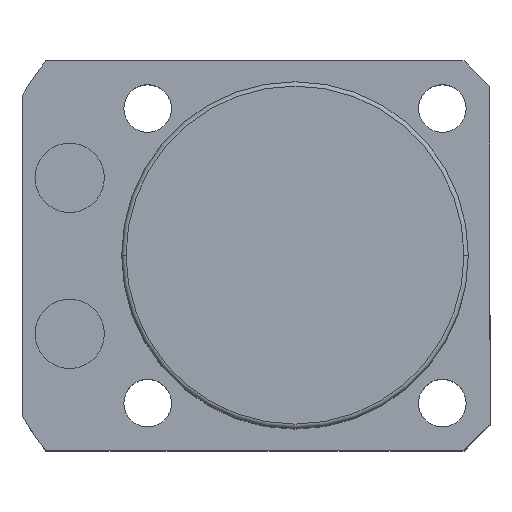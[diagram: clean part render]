
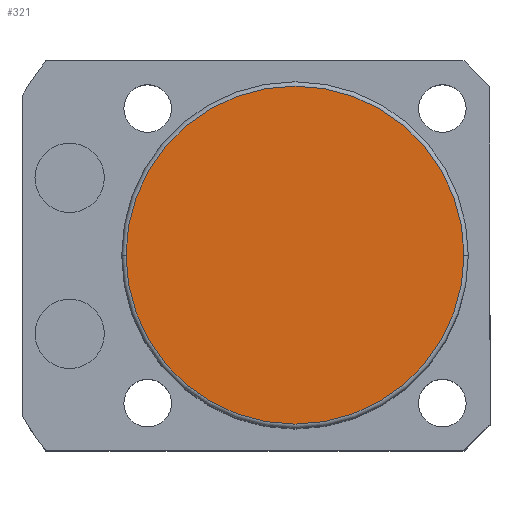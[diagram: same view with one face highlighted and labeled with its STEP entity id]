
A CAD part, top view. The second image highlights one B-rep face of the part: STEP entity #321.
In plain terms, the highlighted planar face has unit normal (0, 0, 1).
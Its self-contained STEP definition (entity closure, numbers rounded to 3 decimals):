
#31 = CARTESIAN_POINT ( 'NONE',  ( 0., 0., 58.5 ) ) ;
#321 = ADVANCED_FACE ( 'NONE', ( #1685 ), #608, .T. ) ;
#502 = EDGE_LOOP ( 'NONE', ( #2182, #562 ) ) ;
#562 = ORIENTED_EDGE ( 'NONE', *, *, #1622, .T. ) ;
#572 = DIRECTION ( 'NONE',  ( 1., 0., 0. ) ) ;
#608 = PLANE ( 'NONE',  #1520 ) ;
#801 = DIRECTION ( 'NONE',  ( 1., 0., 0. ) ) ;
#967 = VERTEX_POINT ( 'NONE', #1394 ) ;
#1033 = AXIS2_PLACEMENT_3D ( 'NONE', #2219, #2022, #572 ) ;
#1256 = DIRECTION ( 'NONE',  ( 1., 0., 0. ) ) ;
#1265 = VERTEX_POINT ( 'NONE', #1308 ) ;
#1308 = CARTESIAN_POINT ( 'NONE',  ( -19.5, 0., 58.5 ) ) ;
#1394 = CARTESIAN_POINT ( 'NONE',  ( 19.5, 0., 58.5 ) ) ;
#1520 = AXIS2_PLACEMENT_3D ( 'NONE', #31, #2363, #801 ) ;
#1622 = EDGE_CURVE ( 'NONE', #1265, #967, #2445, .T. ) ;
#1685 = FACE_OUTER_BOUND ( 'NONE', #502, .T. ) ;
#1853 = CIRCLE ( 'NONE', #2006, 19.5 ) ;
#2006 = AXIS2_PLACEMENT_3D ( 'NONE', #2038, #2241, #1256 ) ;
#2022 = DIRECTION ( 'NONE',  ( 0., 0., 1. ) ) ;
#2038 = CARTESIAN_POINT ( 'NONE',  ( 0., 0., 58.5 ) ) ;
#2182 = ORIENTED_EDGE ( 'NONE', *, *, #2426, .T. ) ;
#2219 = CARTESIAN_POINT ( 'NONE',  ( 0., 0., 58.5 ) ) ;
#2241 = DIRECTION ( 'NONE',  ( 0., 0., 1. ) ) ;
#2363 = DIRECTION ( 'NONE',  ( 0., 0., 1. ) ) ;
#2426 = EDGE_CURVE ( 'NONE', #967, #1265, #1853, .T. ) ;
#2445 = CIRCLE ( 'NONE', #1033, 19.5 ) ;
